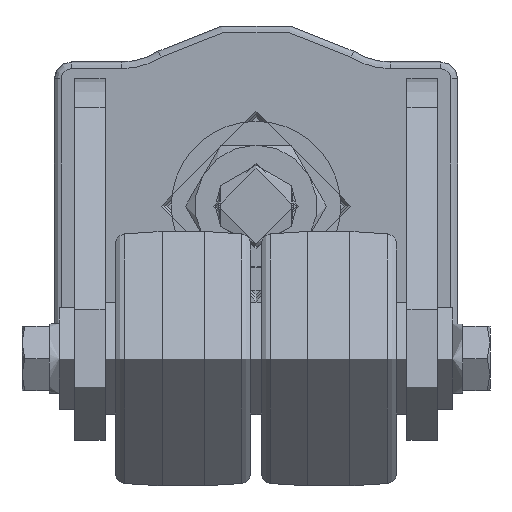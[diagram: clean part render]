
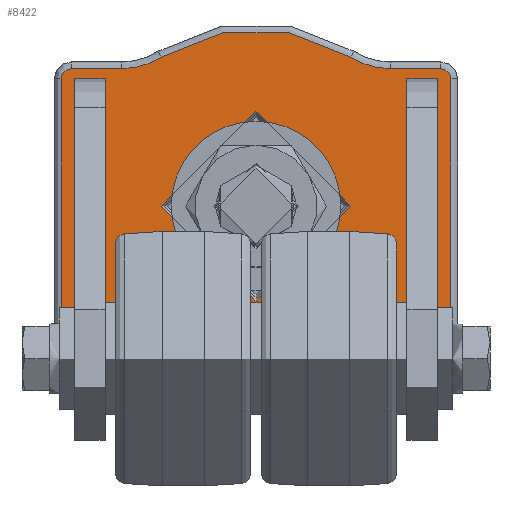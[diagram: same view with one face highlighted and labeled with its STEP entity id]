
A CAD part, front view. The second image highlights one B-rep face of the part: STEP entity #8422.
In plain terms, the highlighted planar face has unit normal (0, -1, 0).
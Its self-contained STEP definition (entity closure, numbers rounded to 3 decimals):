
#127=FACE_BOUND('',#1652,.T.);
#128=FACE_BOUND('',#1653,.T.);
#129=FACE_BOUND('',#1654,.T.);
#713=PLANE('',#8927);
#1115=FACE_OUTER_BOUND('',#1651,.T.);
#1651=EDGE_LOOP('',(#7371,#7372,#7373,#7374,#7375,#7376,#7377,#7378,#7379,
#7380,#7381,#7382,#7383,#7384,#7385,#7386));
#1652=EDGE_LOOP('',(#7387,#7388,#7389,#7390));
#1653=EDGE_LOOP('',(#7391,#7392,#7393,#7394));
#1654=EDGE_LOOP('',(#7395));
#2131=LINE('',#12738,#2888);
#2417=LINE('',#14109,#3174);
#2424=LINE('',#14140,#3181);
#2430=LINE('',#14156,#3187);
#2431=LINE('',#14158,#3188);
#2437=LINE('',#14240,#3194);
#2441=LINE('',#14250,#3198);
#2445=LINE('',#14258,#3202);
#2471=LINE('',#14404,#3228);
#2472=LINE('',#14408,#3229);
#2473=LINE('',#14412,#3230);
#2474=LINE('',#14420,#3231);
#2475=LINE('',#14424,#3232);
#2476=LINE('',#14428,#3233);
#2888=VECTOR('',#9750,10.);
#3174=VECTOR('',#10230,10.);
#3181=VECTOR('',#10265,10.);
#3187=VECTOR('',#10283,10.);
#3188=VECTOR('',#10286,10.);
#3194=VECTOR('',#10410,10.);
#3198=VECTOR('',#10420,10.);
#3202=VECTOR('',#10432,10.);
#3228=VECTOR('',#10556,10.);
#3229=VECTOR('',#10559,10.);
#3230=VECTOR('',#10562,10.);
#3231=VECTOR('',#10569,10.);
#3232=VECTOR('',#10572,10.);
#3233=VECTOR('',#10575,10.);
#3405=CIRCLE('',#8928,52.002);
#3406=CIRCLE('',#8929,22.);
#3407=CIRCLE('',#8930,3.);
#3408=CIRCLE('',#8931,3.);
#3409=CIRCLE('',#8932,22.);
#3410=CIRCLE('',#8933,52.002);
#3411=CIRCLE('',#8934,22.);
#3412=CIRCLE('',#8935,3.);
#3413=CIRCLE('',#8936,3.);
#3414=CIRCLE('',#8937,22.);
#3415=CIRCLE('',#8938,28.);
#3842=VERTEX_POINT('',#12734);
#3844=VERTEX_POINT('',#12737);
#4093=VERTEX_POINT('',#14105);
#4095=VERTEX_POINT('',#14108);
#4104=VERTEX_POINT('',#14136);
#4109=VERTEX_POINT('',#14154);
#4124=VERTEX_POINT('',#14236);
#4126=VERTEX_POINT('',#14239);
#4161=VERTEX_POINT('',#14398);
#4162=VERTEX_POINT('',#14399);
#4163=VERTEX_POINT('',#14401);
#4164=VERTEX_POINT('',#14403);
#4165=VERTEX_POINT('',#14405);
#4166=VERTEX_POINT('',#14407);
#4167=VERTEX_POINT('',#14409);
#4168=VERTEX_POINT('',#14411);
#4169=VERTEX_POINT('',#14413);
#4170=VERTEX_POINT('',#14415);
#4171=VERTEX_POINT('',#14417);
#4172=VERTEX_POINT('',#14419);
#4173=VERTEX_POINT('',#14421);
#4174=VERTEX_POINT('',#14423);
#4175=VERTEX_POINT('',#14425);
#4176=VERTEX_POINT('',#14427);
#4177=VERTEX_POINT('',#14430);
#4754=EDGE_CURVE('',#3844,#3842,#2131,.T.);
#5127=EDGE_CURVE('',#4095,#4093,#2417,.T.);
#5141=EDGE_CURVE('',#4104,#3844,#2424,.T.);
#5149=EDGE_CURVE('',#3842,#4109,#2430,.T.);
#5150=EDGE_CURVE('',#4109,#4104,#2431,.T.);
#5188=EDGE_CURVE('',#4126,#4124,#2437,.T.);
#5194=EDGE_CURVE('',#4093,#4126,#2441,.T.);
#5198=EDGE_CURVE('',#4124,#4095,#2445,.T.);
#5255=EDGE_CURVE('',#4161,#4162,#3405,.T.);
#5256=EDGE_CURVE('',#4163,#4161,#3406,.T.);
#5257=EDGE_CURVE('',#4164,#4163,#2471,.T.);
#5258=EDGE_CURVE('',#4165,#4164,#3407,.T.);
#5259=EDGE_CURVE('',#4166,#4165,#2472,.T.);
#5260=EDGE_CURVE('',#4167,#4166,#3408,.T.);
#5261=EDGE_CURVE('',#4168,#4167,#2473,.T.);
#5262=EDGE_CURVE('',#4169,#4168,#3409,.T.);
#5263=EDGE_CURVE('',#4170,#4169,#3410,.T.);
#5264=EDGE_CURVE('',#4171,#4170,#3411,.T.);
#5265=EDGE_CURVE('',#4172,#4171,#2474,.T.);
#5266=EDGE_CURVE('',#4173,#4172,#3412,.T.);
#5267=EDGE_CURVE('',#4174,#4173,#2475,.T.);
#5268=EDGE_CURVE('',#4175,#4174,#3413,.T.);
#5269=EDGE_CURVE('',#4176,#4175,#2476,.T.);
#5270=EDGE_CURVE('',#4162,#4176,#3414,.T.);
#5271=EDGE_CURVE('',#4177,#4177,#3415,.T.);
#7371=ORIENTED_EDGE('',*,*,#5255,.F.);
#7372=ORIENTED_EDGE('',*,*,#5256,.F.);
#7373=ORIENTED_EDGE('',*,*,#5257,.F.);
#7374=ORIENTED_EDGE('',*,*,#5258,.F.);
#7375=ORIENTED_EDGE('',*,*,#5259,.F.);
#7376=ORIENTED_EDGE('',*,*,#5260,.F.);
#7377=ORIENTED_EDGE('',*,*,#5261,.F.);
#7378=ORIENTED_EDGE('',*,*,#5262,.F.);
#7379=ORIENTED_EDGE('',*,*,#5263,.F.);
#7380=ORIENTED_EDGE('',*,*,#5264,.F.);
#7381=ORIENTED_EDGE('',*,*,#5265,.F.);
#7382=ORIENTED_EDGE('',*,*,#5266,.F.);
#7383=ORIENTED_EDGE('',*,*,#5267,.F.);
#7384=ORIENTED_EDGE('',*,*,#5268,.F.);
#7385=ORIENTED_EDGE('',*,*,#5269,.F.);
#7386=ORIENTED_EDGE('',*,*,#5270,.F.);
#7387=ORIENTED_EDGE('',*,*,#4754,.T.);
#7388=ORIENTED_EDGE('',*,*,#5149,.T.);
#7389=ORIENTED_EDGE('',*,*,#5150,.T.);
#7390=ORIENTED_EDGE('',*,*,#5141,.T.);
#7391=ORIENTED_EDGE('',*,*,#5188,.T.);
#7392=ORIENTED_EDGE('',*,*,#5198,.T.);
#7393=ORIENTED_EDGE('',*,*,#5127,.T.);
#7394=ORIENTED_EDGE('',*,*,#5194,.T.);
#7395=ORIENTED_EDGE('',*,*,#5271,.T.);
#8422=ADVANCED_FACE('',(#1115,#127,#128,#129),#713,.T.);
#8927=AXIS2_PLACEMENT_3D('',#14397,#10550,#10551);
#8928=AXIS2_PLACEMENT_3D('',#14400,#10552,#10553);
#8929=AXIS2_PLACEMENT_3D('',#14402,#10554,#10555);
#8930=AXIS2_PLACEMENT_3D('',#14406,#10557,#10558);
#8931=AXIS2_PLACEMENT_3D('',#14410,#10560,#10561);
#8932=AXIS2_PLACEMENT_3D('',#14414,#10563,#10564);
#8933=AXIS2_PLACEMENT_3D('',#14416,#10565,#10566);
#8934=AXIS2_PLACEMENT_3D('',#14418,#10567,#10568);
#8935=AXIS2_PLACEMENT_3D('',#14422,#10570,#10571);
#8936=AXIS2_PLACEMENT_3D('',#14426,#10573,#10574);
#8937=AXIS2_PLACEMENT_3D('',#14429,#10576,#10577);
#8938=AXIS2_PLACEMENT_3D('',#14431,#10578,#10579);
#9750=DIRECTION('',(0.,0.,1.));
#10230=DIRECTION('',(0.,0.,-1.));
#10265=DIRECTION('',(-1.,0.,0.));
#10283=DIRECTION('',(1.,0.,0.));
#10286=DIRECTION('',(0.,0.,-1.));
#10410=DIRECTION('',(0.,0.,1.));
#10420=DIRECTION('',(-1.,0.,0.));
#10432=DIRECTION('',(1.,0.,0.));
#10550=DIRECTION('center_axis',(0.,-1.,0.));
#10551=DIRECTION('ref_axis',(1.,0.,0.));
#10552=DIRECTION('center_axis',(0.,1.,0.));
#10553=DIRECTION('ref_axis',(0.,0.,
1.));
#10554=DIRECTION('center_axis',(0.,-1.,0.));
#10555=DIRECTION('ref_axis',(0.279,0.,-0.96));
#10556=DIRECTION('',(1.,0.,0.));
#10557=DIRECTION('center_axis',(0.,1.,0.));
#10558=DIRECTION('ref_axis',(-0.707,0.,0.707));
#10559=DIRECTION('',(0.,0.,1.));
#10560=DIRECTION('center_axis',(0.,1.,0.));
#10561=DIRECTION('ref_axis',(-0.707,0.,-0.707));
#10562=DIRECTION('',(-1.,0.,0.));
#10563=DIRECTION('center_axis',(0.,-1.,0.));
#10564=DIRECTION('ref_axis',(0.279,0.,0.96));
#10565=DIRECTION('center_axis',(0.,1.,0.));
#10566=DIRECTION('ref_axis',(0.,0.,
-1.));
#10567=DIRECTION('center_axis',(0.,-1.,0.));
#10568=DIRECTION('ref_axis',(-0.279,0.,0.96));
#10569=DIRECTION('',(-1.,0.,0.));
#10570=DIRECTION('center_axis',(0.,1.,0.));
#10571=DIRECTION('ref_axis',(0.707,0.,-0.707));
#10572=DIRECTION('',(0.,0.,-1.));
#10573=DIRECTION('center_axis',(0.,1.,0.));
#10574=DIRECTION('ref_axis',(0.707,0.,0.707));
#10575=DIRECTION('',(1.,0.,0.));
#10576=DIRECTION('center_axis',(0.,-1.,0.));
#10577=DIRECTION('ref_axis',(-0.279,0.,-0.96));
#10578=DIRECTION('center_axis',(0.,1.,0.));
#10579=DIRECTION('ref_axis',(-1.,0.,0.));
#12734=CARTESIAN_POINT('',(-53.5,-36.5,37.5));
#12737=CARTESIAN_POINT('',(-53.5,-36.5,-37.5));
#12738=CARTESIAN_POINT('',(-53.5,-36.5,-9.01));
#14105=CARTESIAN_POINT('',(53.5,-36.5,-37.5));
#14108=CARTESIAN_POINT('',(53.5,-36.5,37.5));
#14109=CARTESIAN_POINT('',(53.5,-36.5,-9.01));
#14136=CARTESIAN_POINT('',(-44.5,-36.5,-37.5));
#14140=CARTESIAN_POINT('',(-44.,-36.5,-37.5));
#14154=CARTESIAN_POINT('',(-44.5,-36.5,37.5));
#14156=CARTESIAN_POINT('',(-44.,-36.5,37.5));
#14158=CARTESIAN_POINT('',(-44.5,-36.5,-9.01));
#14236=CARTESIAN_POINT('',(44.5,-36.5,37.5));
#14239=CARTESIAN_POINT('',(44.5,-36.5,-37.5));
#14240=CARTESIAN_POINT('',(44.5,-36.5,-9.01));
#14250=CARTESIAN_POINT('',(5.,-36.5,-37.5));
#14258=CARTESIAN_POINT('',(5.,-36.5,37.5));
#14397=CARTESIAN_POINT('Origin',(-39.,-36.5,0.));
#14398=CARTESIAN_POINT('',(-27.844,-36.5,43.919));
#14399=CARTESIAN_POINT('',(27.844,-36.5,43.919));
#14400=CARTESIAN_POINT('Origin',(0.,-36.5,
0.));
#14401=CARTESIAN_POINT('',(-39.624,-36.5,40.5));
#14402=CARTESIAN_POINT('Origin',(-39.624,-36.5,62.5));
#14403=CARTESIAN_POINT('',(-54.5,-36.5,40.5));
#14404=CARTESIAN_POINT('',(-39.312,-36.5,40.5));
#14405=CARTESIAN_POINT('',(-57.5,-36.5,37.5));
#14406=CARTESIAN_POINT('Origin',(-54.5,-36.5,37.5));
#14407=CARTESIAN_POINT('',(-57.5,-36.5,-37.5));
#14408=CARTESIAN_POINT('',(-57.5,-36.5,18.75));
#14409=CARTESIAN_POINT('',(-54.5,-36.5,-40.5));
#14410=CARTESIAN_POINT('Origin',(-54.5,-36.5,-37.5));
#14411=CARTESIAN_POINT('',(-39.624,-36.5,-40.5));
#14412=CARTESIAN_POINT('',(-46.75,-36.5,-40.5));
#14413=CARTESIAN_POINT('',(-27.844,-36.5,-43.919));
#14414=CARTESIAN_POINT('Origin',(-39.624,-36.5,-62.5));
#14415=CARTESIAN_POINT('',(27.844,-36.5,-43.919));
#14416=CARTESIAN_POINT('Origin',(0.,-36.5,
0.));
#14417=CARTESIAN_POINT('',(39.624,-36.5,-40.5));
#14418=CARTESIAN_POINT('Origin',(39.624,-36.5,-62.5));
#14419=CARTESIAN_POINT('',(54.5,-36.5,-40.5));
#14420=CARTESIAN_POINT('',(0.312,-36.5,-40.5));
#14421=CARTESIAN_POINT('',(57.5,-36.5,-37.5));
#14422=CARTESIAN_POINT('Origin',(54.5,-36.5,-37.5));
#14423=CARTESIAN_POINT('',(57.5,-36.5,37.5));
#14424=CARTESIAN_POINT('',(57.5,-36.5,-18.75));
#14425=CARTESIAN_POINT('',(54.5,-36.5,40.5));
#14426=CARTESIAN_POINT('Origin',(54.5,-36.5,37.5));
#14427=CARTESIAN_POINT('',(39.624,-36.5,40.5));
#14428=CARTESIAN_POINT('',(7.75,-36.5,40.5));
#14429=CARTESIAN_POINT('Origin',(39.624,-36.5,62.5));
#14430=CARTESIAN_POINT('',(28.,-36.5,0.));
#14431=CARTESIAN_POINT('Origin',(0.,-36.5,
0.));
